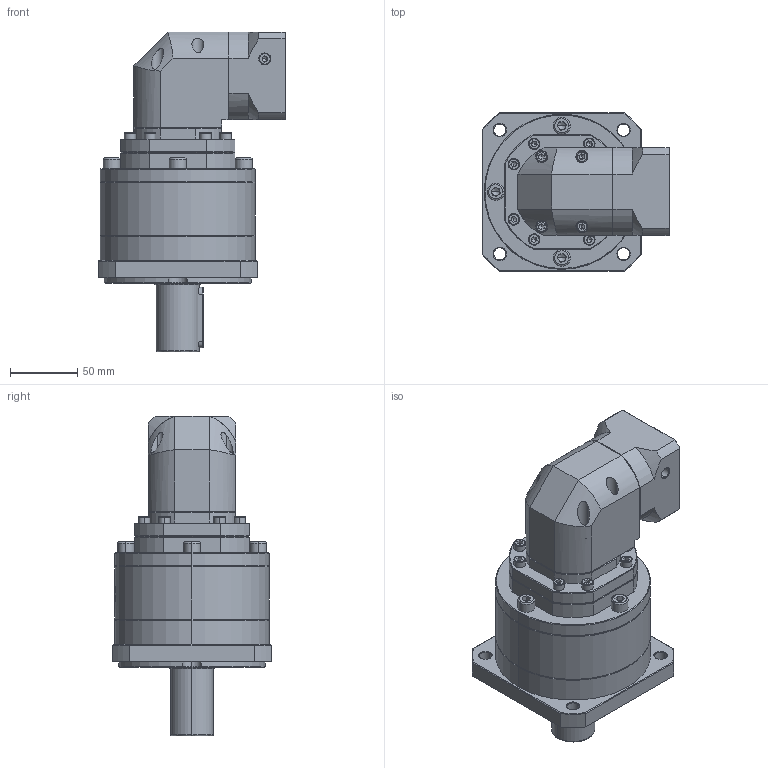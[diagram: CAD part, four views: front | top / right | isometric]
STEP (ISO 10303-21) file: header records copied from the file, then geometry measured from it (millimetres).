
FILE_DESCRIPTION (( 'STEP AP214' ), '1' );
FILE_NAME ('ZFR120A-D32-L3-P2-14-60-75-M6.step', '2023-08-27T09:50:08', ( '' ), ( '' ), 'SwSTEP 2.0', 'SolidWorks 2016', '' );
FILE_SCHEMA (( 'AUTOMOTIVE_DESIGN' ));
Length unit declared in the file: millimetre
Products named in the file (1): ZFR120A-D32-L3-P2-14-60-75-M6
Bounding box: 139.2 x 118 x 237.5 mm (x, y, z)
Volume: 1496793.6 mm3; surface area: 142369.5 mm2
Topology: 6 solids, 6 shells, 2431 faces, 6476 edges, 4161 vertices
Faces by surface type: plane 1172, cylinder 458, bspline 435, cone 346, torus 20
Entity records: 129231 total; most frequent: CARTESIAN_POINT 47270, ORIENTED_EDGE 12844, DIRECTION 9671, EDGE_CURVE 6422, VERTEX_POINT 4161, LINE 3427, VECTOR 3427, AXIS2_PLACEMENT_3D 3122
